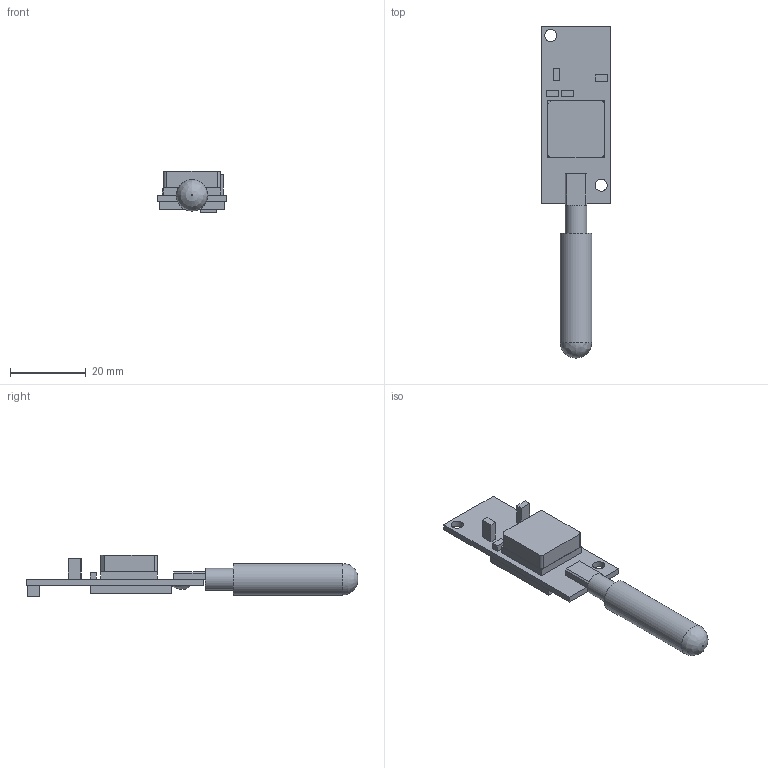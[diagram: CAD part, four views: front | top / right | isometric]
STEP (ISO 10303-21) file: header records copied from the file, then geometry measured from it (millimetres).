
FILE_DESCRIPTION(/* description */ (''),/* implementation_level */ '2;1');
FILE_NAME(/* name */ 'GpsBeacon.step',/* time_stamp */ '2026-01-14T21:33:12-05:00',/* author */ (''),/* organization */ (''),/* preprocessor_version */ 'ST-DEVELOPER v20.1',/* originating_system */ 'Autodesk Translation Framework v14.21.0.0',/* authorisation */ '');
FILE_SCHEMA (('AUTOMOTIVE_DESIGN { 1 0 10303 214 3 1 1 }'));
Length unit declared in the file: millimetre
Products named in the file (1): GpsBeacon
Bounding box: 18.4 x 87.93 x 10.93 mm (x, y, z)
Volume: 5814.5 mm3; surface area: 4981.9 mm2
Topology: 12 solids, 12 shells, 78 faces, 159 edges, 106 vertices
Faces by surface type: plane 69, cylinder 7, bspline 2
Full cylindrical faces by diameter (mm): 3.2 x2, 5.75 x1, 8.35 x1
Entity records: 2145 total; most frequent: CARTESIAN_POINT 409, DIRECTION 333, ORIENTED_EDGE 318, EDGE_CURVE 159, LINE 137, VECTOR 137, VERTEX_POINT 106, AXIS2_PLACEMENT_3D 98
